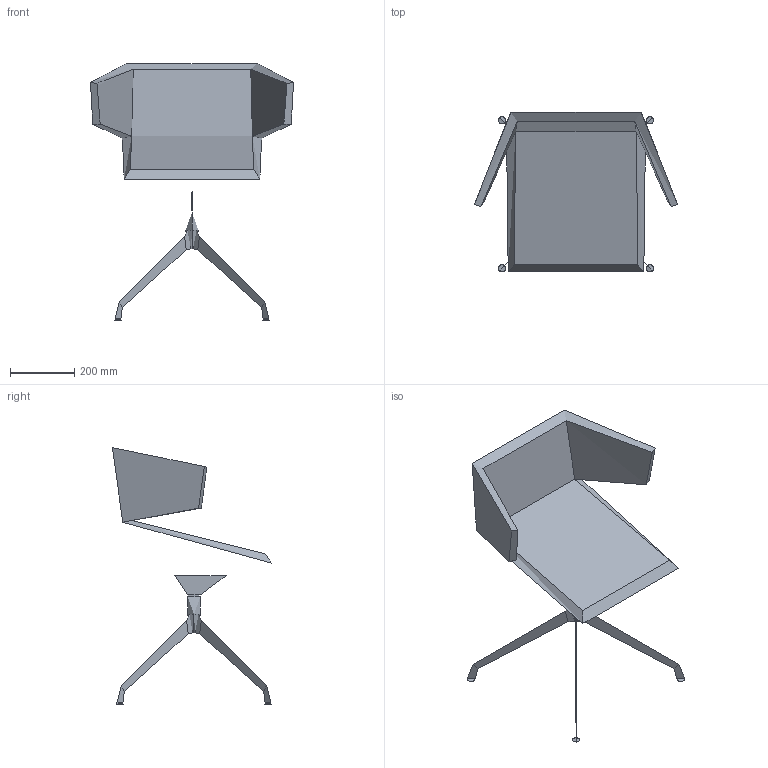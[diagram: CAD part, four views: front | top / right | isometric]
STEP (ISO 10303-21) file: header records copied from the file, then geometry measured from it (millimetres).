
FILE_DESCRIPTION(/* description */ (''),/* implementation_level */ '2;1');
FILE_NAME(/* name */ 'FLEXIP~1',/* time_stamp */ '2015-11-12T16:16:15+01:00',/* author */ (''),/* organization */ (''),/* preprocessor_version */ 'ST-DEVELOPER v15',/* originating_system */ '',/* authorisation */ '');
FILE_SCHEMA (('CONFIG_CONTROL_DESIGN'));
Length unit declared in the file: millimetre
Products named in the file (1): Document
Bounding box: 630.91 x 494.74 x 797.72 mm (x, y, z)
Volume: 19541646.3 mm3; surface area: 1214878.7 mm2
Topology: 1 solids, 6 shells, 72 faces, 161 edges, 93 vertices
Faces by surface type: bspline 66, plane 6
Entity records: 11718 total; most frequent: CARTESIAN_POINT 10701, ORIENTED_EDGE 290, EDGE_CURVE 154, VERTEX_POINT 91, B_SPLINE_CURVE_WITH_KNOTS 83, EDGE_LOOP 78, ADVANCED_FACE 72, FACE_OUTER_BOUND 72
